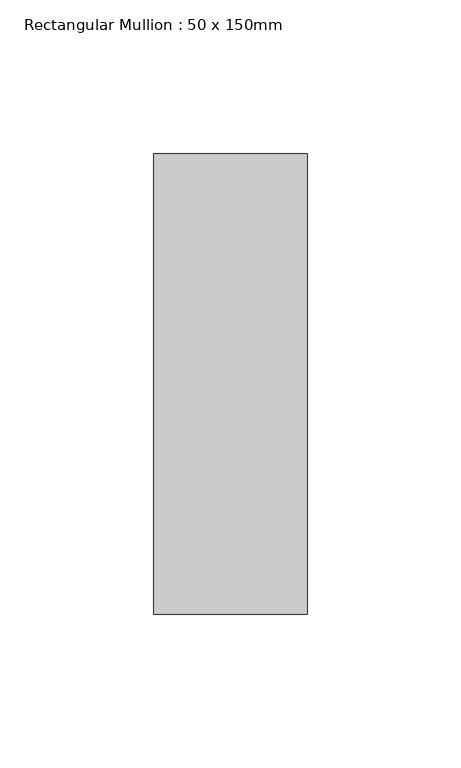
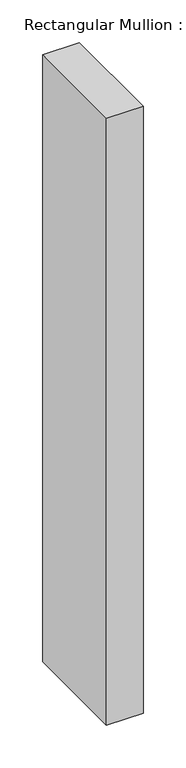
"""IFC4 building model written with IfcOpenShell, lengths in millimetres: member geometry, Rectangular Mullion : 50 x 150mm."""

from ifc_helpers import new_model, si_unit, frame, origin, place, context, project, spatial, polyline, outline, extrude, source, transform, mapped, element, save


def rectangular_mullion_50_x_150mm_54cde4f8(model_context):
    return source(origin(), model_context, "Body", "SweptSolid", [
        extrude(outline(polyline([(0.0, 75.0), (0.0, -75.0), (-50.0, -75.0), (-50.0, 75.0), (0.0, 75.0)])), frame((0.0, 0.0, -869.9960441), z_axis=(0.0, 0.0, 1.0), x_axis=(1.0, 0.0, 0.0)), (0.0, 0.0, 1.0), 869.9960441),
    ])


if __name__ == "__main__":
    model = new_model("IFC4")
    model_context = context("Model", 3, world=origin())
    ifc_project = project(units=[si_unit("LENGTHUNIT", "METRE", prefix="MILLI")], contexts=[model_context])
    site = spatial("IfcSite", under=ifc_project)
    building = spatial("IfcBuilding", under=site)
    placement = place(None, origin())
    rectangular_mullion_50_x_150mm_shape = rectangular_mullion_50_x_150mm_54cde4f8(model_context)
    element("IfcMember", 1, ObjectType="Rectangular Mullion : 50 x 150mm", at=placement, inside=building, context=model_context, shape_type="MappedRepresentation", body=[
        mapped(rectangular_mullion_50_x_150mm_shape, transform((0.0, 0.0, 0.0), x_axis=(1.0, 0.0, 0.0), y_axis=(0.0, 1.0, 0.0), z_axis=(0.0, 0.0, 1.0))),
    ])
    save(model, "model.ifc")
